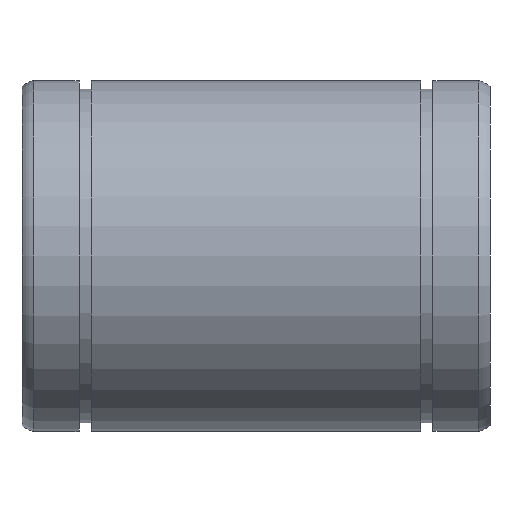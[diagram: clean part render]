
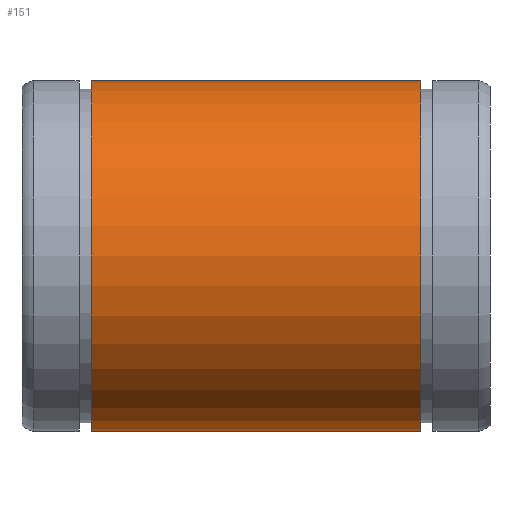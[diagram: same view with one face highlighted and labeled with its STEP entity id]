
A CAD part, front view. The second image highlights one B-rep face of the part: STEP entity #151.
In plain terms, the highlighted cylindrical face has radius 30 mm (diameter 60 mm), a full revolution.
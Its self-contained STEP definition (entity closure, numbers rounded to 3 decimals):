
#117=CARTESIAN_POINT('',(68.15,0.0,30.0));
#118=VERTEX_POINT('',#117);
#119=CARTESIAN_POINT('',(68.15,0.0,0.));
#120=DIRECTION('',(-1.0,0.0,0.0));
#121=DIRECTION('',(0.0,0.0,1.0));
#122=AXIS2_PLACEMENT_3D('',#119,#120,#121);
#123=CIRCLE('',#122,30.);
#124=EDGE_CURVE('',#118,#118,#123,.T.);
#132=CARTESIAN_POINT('',(40.,0.0,0.));
#133=DIRECTION('',(-1.0,0.0,0.0));
#134=DIRECTION('',(0.0,0.0,1.0));
#135=AXIS2_PLACEMENT_3D('',#132,#133,#134);
#136=CYLINDRICAL_SURFACE('',#135,30.);
#137=CARTESIAN_POINT('',(11.85,0.0,30.));
#138=VERTEX_POINT('',#137);
#139=CARTESIAN_POINT('',(11.85,0.0,0.));
#140=DIRECTION('',(-1.0,0.0,0.0));
#141=DIRECTION('',(0.0,0.0,1.0));
#142=AXIS2_PLACEMENT_3D('',#139,#140,#141);
#143=CIRCLE('',#142,30.0);
#144=EDGE_CURVE('',#138,#138,#143,.T.);
#145=ORIENTED_EDGE('',*,*,#144,.F.);
#146=EDGE_LOOP('',(#145));
#147=FACE_OUTER_BOUND('',#146,.T.);
#148=ORIENTED_EDGE('',*,*,#124,.T.);
#149=EDGE_LOOP('',(#148));
#150=FACE_BOUND('',#149,.T.);
#151=ADVANCED_FACE('',(#147,#150),#136,.T.);
